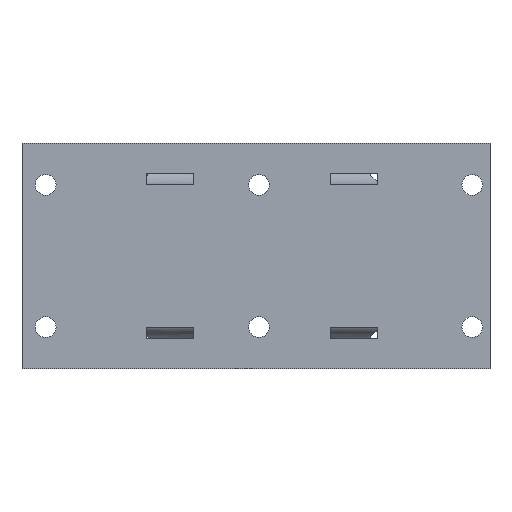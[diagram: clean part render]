
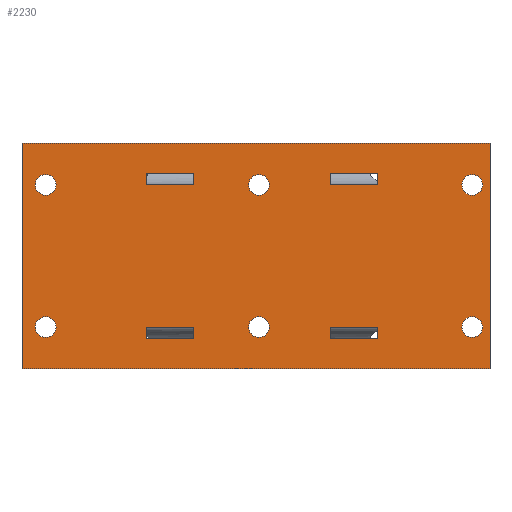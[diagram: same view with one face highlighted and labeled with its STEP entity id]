
A CAD part, left-side view. The second image highlights one B-rep face of the part: STEP entity #2230.
In plain terms, the highlighted planar face has unit normal (-1, 0, 0) as drawn and (0, 0, -1) by its records, which use the part's own axes.
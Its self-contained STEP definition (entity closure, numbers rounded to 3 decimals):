
#65=CIRCLE('',#2346,1.75);
#66=CIRCLE('',#2348,1.75);
#68=CIRCLE('',#2351,1.75);
#70=CIRCLE('',#2354,1.75);
#71=CIRCLE('',#2356,1.75);
#73=CIRCLE('',#2359,1.75);
#93=FACE_BOUND('',#426,.T.);
#94=FACE_BOUND('',#427,.T.);
#95=FACE_BOUND('',#428,.T.);
#96=FACE_BOUND('',#429,.T.);
#97=FACE_BOUND('',#430,.T.);
#98=FACE_BOUND('',#431,.T.);
#99=FACE_BOUND('',#432,.T.);
#100=FACE_BOUND('',#433,.T.);
#101=FACE_BOUND('',#434,.T.);
#102=FACE_BOUND('',#435,.T.);
#298=FACE_OUTER_BOUND('',#425,.T.);
#425=EDGE_LOOP('',(#2015,#2016,#2017,#2018));
#426=EDGE_LOOP('',(#2019));
#427=EDGE_LOOP('',(#2020));
#428=EDGE_LOOP('',(#2021));
#429=EDGE_LOOP('',(#2022));
#430=EDGE_LOOP('',(#2023));
#431=EDGE_LOOP('',(#2024));
#432=EDGE_LOOP('',(#2025,#2026,#2027,#2028));
#433=EDGE_LOOP('',(#2029,#2030,#2031,#2032));
#434=EDGE_LOOP('',(#2033,#2034,#2035,#2036));
#435=EDGE_LOOP('',(#2037,#2038,#2039,#2040));
#550=LINE('',#3677,#771);
#582=LINE('',#3764,#803);
#586=LINE('',#3772,#807);
#589=LINE('',#3779,#810);
#593=LINE('',#3806,#814);
#597=LINE('',#3814,#818);
#599=LINE('',#3818,#820);
#601=LINE('',#3825,#822);
#606=LINE('',#3840,#827);
#611=LINE('',#3863,#832);
#615=LINE('',#3870,#836);
#622=LINE('',#3903,#843);
#626=LINE('',#3912,#847);
#629=LINE('',#3921,#850);
#633=LINE('',#3927,#854);
#635=LINE('',#3930,#856);
#639=LINE('',#3937,#860);
#653=LINE('',#3991,#874);
#658=LINE('',#4001,#879);
#659=LINE('',#4002,#880);
#771=VECTOR('',#2554,10.);
#803=VECTOR('',#2628,10.);
#807=VECTOR('',#2636,10.);
#810=VECTOR('',#2643,10.);
#814=VECTOR('',#2655,10.);
#818=VECTOR('',#2663,10.);
#820=VECTOR('',#2669,10.);
#822=VECTOR('',#2677,10.);
#827=VECTOR('',#2690,10.);
#832=VECTOR('',#2703,10.);
#836=VECTOR('',#2709,10.);
#843=VECTOR('',#2726,10.);
#847=VECTOR('',#2734,10.);
#850=VECTOR('',#2743,10.);
#854=VECTOR('',#2749,10.);
#856=VECTOR('',#2753,10.);
#860=VECTOR('',#2761,10.);
#874=VECTOR('',#2823,10.);
#879=VECTOR('',#2836,10.);
#880=VECTOR('',#2837,10.);
#1004=VERTEX_POINT('',#3674);
#1005=VERTEX_POINT('',#3676);
#1030=VERTEX_POINT('',#3761);
#1031=VERTEX_POINT('',#3763);
#1033=VERTEX_POINT('',#3770);
#1035=VERTEX_POINT('',#3777);
#1041=VERTEX_POINT('',#3803);
#1042=VERTEX_POINT('',#3805);
#1044=VERTEX_POINT('',#3812);
#1046=VERTEX_POINT('',#3824);
#1051=VERTEX_POINT('',#3837);
#1052=VERTEX_POINT('',#3839);
#1058=VERTEX_POINT('',#3861);
#1060=VERTEX_POINT('',#3868);
#1068=VERTEX_POINT('',#3900);
#1069=VERTEX_POINT('',#3902);
#1072=VERTEX_POINT('',#3910);
#1075=VERTEX_POINT('',#3920);
#1080=VERTEX_POINT('',#3949);
#1081=VERTEX_POINT('',#3953);
#1083=VERTEX_POINT('',#3959);
#1085=VERTEX_POINT('',#3965);
#1086=VERTEX_POINT('',#3969);
#1088=VERTEX_POINT('',#3975);
#1092=VERTEX_POINT('',#3988);
#1093=VERTEX_POINT('',#3990);
#1267=EDGE_CURVE('',#1004,#1005,#550,.T.);
#1307=EDGE_CURVE('',#1031,#1030,#582,.T.);
#1312=EDGE_CURVE('',#1030,#1033,#586,.T.);
#1316=EDGE_CURVE('',#1033,#1035,#589,.T.);
#1323=EDGE_CURVE('',#1042,#1041,#593,.T.);
#1328=EDGE_CURVE('',#1041,#1044,#597,.T.);
#1330=EDGE_CURVE('',#1035,#1031,#599,.T.);
#1333=EDGE_CURVE('',#1046,#1042,#601,.T.);
#1340=EDGE_CURVE('',#1052,#1051,#606,.T.);
#1348=EDGE_CURVE('',#1051,#1058,#611,.T.);
#1352=EDGE_CURVE('',#1058,#1060,#615,.T.);
#1362=EDGE_CURVE('',#1069,#1068,#622,.T.);
#1367=EDGE_CURVE('',#1068,#1072,#626,.T.);
#1371=EDGE_CURVE('',#1075,#1069,#629,.T.);
#1375=EDGE_CURVE('',#1072,#1075,#633,.T.);
#1377=EDGE_CURVE('',#1044,#1046,#635,.T.);
#1381=EDGE_CURVE('',#1060,#1052,#639,.T.);
#1388=EDGE_CURVE('',#1080,#1080,#65,.T.);
#1390=EDGE_CURVE('',#1081,#1081,#66,.T.);
#1393=EDGE_CURVE('',#1083,#1083,#68,.T.);
#1396=EDGE_CURVE('',#1085,#1085,#70,.T.);
#1398=EDGE_CURVE('',#1086,#1086,#71,.T.);
#1401=EDGE_CURVE('',#1088,#1088,#73,.T.);
#1409=EDGE_CURVE('',#1092,#1093,#653,.T.);
#1414=EDGE_CURVE('',#1093,#1004,#658,.T.);
#1415=EDGE_CURVE('',#1005,#1092,#659,.T.);
#2015=ORIENTED_EDGE('',*,*,#1414,.F.);
#2016=ORIENTED_EDGE('',*,*,#1409,.F.);
#2017=ORIENTED_EDGE('',*,*,#1415,.F.);
#2018=ORIENTED_EDGE('',*,*,#1267,.F.);
#2019=ORIENTED_EDGE('',*,*,#1388,.T.);
#2020=ORIENTED_EDGE('',*,*,#1390,.T.);
#2021=ORIENTED_EDGE('',*,*,#1393,.T.);
#2022=ORIENTED_EDGE('',*,*,#1396,.T.);
#2023=ORIENTED_EDGE('',*,*,#1398,.T.);
#2024=ORIENTED_EDGE('',*,*,#1401,.T.);
#2025=ORIENTED_EDGE('',*,*,#1352,.T.);
#2026=ORIENTED_EDGE('',*,*,#1381,.T.);
#2027=ORIENTED_EDGE('',*,*,#1340,.T.);
#2028=ORIENTED_EDGE('',*,*,#1348,.T.);
#2029=ORIENTED_EDGE('',*,*,#1367,.T.);
#2030=ORIENTED_EDGE('',*,*,#1375,.T.);
#2031=ORIENTED_EDGE('',*,*,#1371,.T.);
#2032=ORIENTED_EDGE('',*,*,#1362,.T.);
#2033=ORIENTED_EDGE('',*,*,#1316,.T.);
#2034=ORIENTED_EDGE('',*,*,#1330,.T.);
#2035=ORIENTED_EDGE('',*,*,#1307,.T.);
#2036=ORIENTED_EDGE('',*,*,#1312,.T.);
#2037=ORIENTED_EDGE('',*,*,#1333,.T.);
#2038=ORIENTED_EDGE('',*,*,#1323,.T.);
#2039=ORIENTED_EDGE('',*,*,#1328,.T.);
#2040=ORIENTED_EDGE('',*,*,#1377,.T.);
#2119=PLANE('',#2368);
#2230=ADVANCED_FACE('',(#298,#93,#94,#95,#96,#97,#98,#99,#100,#101,#102),
#2119,.F.);
#2346=AXIS2_PLACEMENT_3D('',#3950,#2776,#2777);
#2348=AXIS2_PLACEMENT_3D('',#3954,#2781,#2782);
#2351=AXIS2_PLACEMENT_3D('',#3960,#2788,#2789);
#2354=AXIS2_PLACEMENT_3D('',#3966,#2795,#2796);
#2356=AXIS2_PLACEMENT_3D('',#3970,#2800,#2801);
#2359=AXIS2_PLACEMENT_3D('',#3976,#2807,#2808);
#2368=AXIS2_PLACEMENT_3D('',#4000,#2834,#2835);
#2554=DIRECTION('',(0.,-1.,0.));
#2628=DIRECTION('',(1.,0.,0.));
#2636=DIRECTION('',(0.,1.,0.));
#2643=DIRECTION('',(-1.,0.,0.));
#2655=DIRECTION('',(1.,0.,0.));
#2663=DIRECTION('',(0.,1.,0.));
#2669=DIRECTION('',(0.,-1.,0.));
#2677=DIRECTION('',(0.,-1.,0.));
#2690=DIRECTION('',(0.,1.,0.));
#2703=DIRECTION('',(-1.,0.,0.));
#2709=DIRECTION('',(0.,-1.,0.));
#2726=DIRECTION('',(-1.,0.,0.));
#2734=DIRECTION('',(0.,-1.,0.));
#2743=DIRECTION('',(0.,1.,0.));
#2749=DIRECTION('',(1.,0.,0.));
#2753=DIRECTION('',(-1.,0.,0.));
#2761=DIRECTION('',(1.,0.,0.));
#2776=DIRECTION('center_axis',(0.,0.,1.));
#2777=DIRECTION('ref_axis',(-1.,0.,0.));
#2781=DIRECTION('center_axis',(0.,0.,1.));
#2782=DIRECTION('ref_axis',(-1.,0.,0.));
#2788=DIRECTION('center_axis',(0.,0.,1.));
#2789=DIRECTION('ref_axis',(-1.,0.,0.));
#2795=DIRECTION('center_axis',(0.,0.,1.));
#2796=DIRECTION('ref_axis',(-1.,0.,0.));
#2800=DIRECTION('center_axis',(0.,0.,1.));
#2801=DIRECTION('ref_axis',(-1.,0.,0.));
#2807=DIRECTION('center_axis',(0.,0.,1.));
#2808=DIRECTION('ref_axis',(-1.,0.,0.));
#2823=DIRECTION('',(0.,1.,0.));
#2834=DIRECTION('center_axis',(0.,0.,1.));
#2835=DIRECTION('ref_axis',(1.,0.,0.));
#2836=DIRECTION('',(-1.,0.,0.));
#2837=DIRECTION('',(1.,0.,0.));
#3674=CARTESIAN_POINT('',(-191.,379.,-179.5));
#3676=CARTESIAN_POINT('',(-191.,300.,-179.5));
#3677=CARTESIAN_POINT('',(-191.,359.25,-179.5));
#3761=CARTESIAN_POINT('',(-184.,350.,-179.5));
#3763=CARTESIAN_POINT('',(-186.,350.,-179.5));
#3764=CARTESIAN_POINT('',(-137.75,350.,-179.5));
#3770=CARTESIAN_POINT('',(-184.,358.,-179.5));
#3772=CARTESIAN_POINT('',(-184.,344.75,-179.5));
#3777=CARTESIAN_POINT('',(-186.,358.,-179.5));
#3779=CARTESIAN_POINT('',(-136.75,358.,-179.5));
#3803=CARTESIAN_POINT('',(-184.,319.,-179.5));
#3805=CARTESIAN_POINT('',(-186.,319.,-179.5));
#3806=CARTESIAN_POINT('',(-137.75,319.,-179.5));
#3812=CARTESIAN_POINT('',(-184.,327.,-179.5));
#3814=CARTESIAN_POINT('',(-184.,329.25,-179.5));
#3818=CARTESIAN_POINT('',(-186.,348.75,-179.5));
#3824=CARTESIAN_POINT('',(-186.,327.,-179.5));
#3825=CARTESIAN_POINT('',(-186.,333.25,-179.5));
#3837=CARTESIAN_POINT('',(-158.,358.,-179.5));
#3839=CARTESIAN_POINT('',(-158.,350.,-179.5));
#3840=CARTESIAN_POINT('',(-158.,344.75,-179.5));
#3861=CARTESIAN_POINT('',(-160.,358.,-179.5));
#3863=CARTESIAN_POINT('',(-123.75,358.,-179.5));
#3868=CARTESIAN_POINT('',(-160.,350.,-179.5));
#3870=CARTESIAN_POINT('',(-160.,348.75,-179.5));
#3900=CARTESIAN_POINT('',(-160.,327.,-179.5));
#3902=CARTESIAN_POINT('',(-158.,327.,-179.5));
#3903=CARTESIAN_POINT('',(-123.75,327.,-179.5));
#3910=CARTESIAN_POINT('',(-160.,319.,-179.5));
#3912=CARTESIAN_POINT('',(-160.,333.25,-179.5));
#3920=CARTESIAN_POINT('',(-158.,319.,-179.5));
#3921=CARTESIAN_POINT('',(-158.,329.25,-179.5));
#3927=CARTESIAN_POINT('',(-124.75,319.,-179.5));
#3930=CARTESIAN_POINT('',(-136.75,327.,-179.5));
#3937=CARTESIAN_POINT('',(-124.75,350.,-179.5));
#3949=CARTESIAN_POINT('',(-182.25,339.,-179.5));
#3950=CARTESIAN_POINT('Origin',(-184.,339.,-179.5));
#3953=CARTESIAN_POINT('',(-158.25,375.,-179.5));
#3954=CARTESIAN_POINT('Origin',(-160.,375.,-179.5));
#3959=CARTESIAN_POINT('',(-182.25,303.,-179.5));
#3960=CARTESIAN_POINT('Origin',(-184.,303.,-179.5));
#3965=CARTESIAN_POINT('',(-158.25,339.,-179.5));
#3966=CARTESIAN_POINT('Origin',(-160.,339.,-179.5));
#3969=CARTESIAN_POINT('',(-182.25,375.,-179.5));
#3970=CARTESIAN_POINT('Origin',(-184.,375.,-179.5));
#3975=CARTESIAN_POINT('',(-158.25,303.,-179.5));
#3976=CARTESIAN_POINT('Origin',(-160.,303.,-179.5));
#3988=CARTESIAN_POINT('',(-153.,300.,-179.5));
#3990=CARTESIAN_POINT('',(-153.,379.,-179.5));
#3991=CARTESIAN_POINT('',(-153.,319.75,-179.5));
#4000=CARTESIAN_POINT('Origin',(-89.5,339.5,-179.5));
#4001=CARTESIAN_POINT('',(-121.25,379.,-179.5));
#4002=CARTESIAN_POINT('',(-140.25,300.,-179.5));
